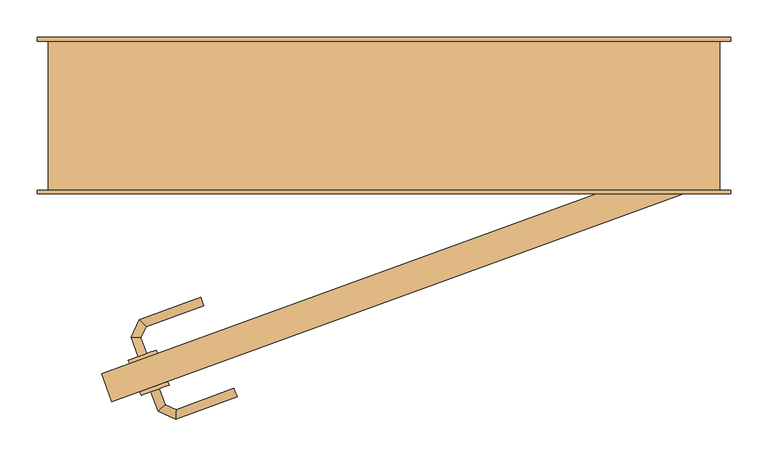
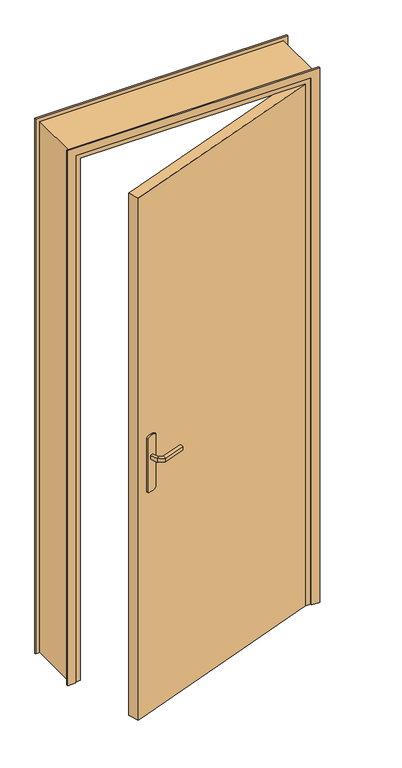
"""IFC4 building model written with IfcOpenShell, lengths in millimetres: door geometry, @_Int. Simple : @_PP (0.83m x 2.04m)."""

from ifc_helpers import new_model, si_unit, point, frame, frame_2d, origin, origin_with_axes, place, context, project, spatial, polyline, circle_curve, ellipse_curve, trimmed, segment, composite_curve, outline, extrude, faceted_brep, source, transform, mapped, element, save
from ifc_brep_helpers import plane_surface, cylinder_surface, advanced_brep


def door_0ca0b57b(model_context):
    return source(origin(), model_context, "Body", "SolidModel", [
        extrude(outline(composite_curve([segment(trimmed(circle_curve(frame_2d((0.0, -40.0)), 40.0), [point((-34.6410162, -60.0))], [point((-34.6410162, -20.0))], False, "CARTESIAN"), True, "CONTINUOUS"), segment(polyline([(-34.6410162, -20.0), (175.3589838, -20.0)]), True, "CONTINUOUS"), segment(trimmed(circle_curve(frame_2d((140.7179676, -40.0)), 40.0), [point((175.3589838, -20.0))], [point((175.3589838, -60.0))], False, "CARTESIAN"), True, "CONTINUOUS"), segment(polyline([(175.3589838, -60.0), (-34.6410162, -60.0)]), True, "CONTINUOUS")], self_intersect=False)), frame((-304.2655125, -354.3731677, 904.6410162), z_axis=(-0.3420201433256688, 0.9396926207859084, 0.0), x_axis=(0.0, 0.0, 1.0)), (0.0, 0.0, 1.0), 5.0),
        extrude(outline(composite_curve([segment(trimmed(circle_curve(frame_2d((0.0, -40.0)), 40.0), [point((34.6410162, -20.0))], [point((34.6410162, -60.0))], False, "CARTESIAN"), True, "CONTINUOUS"), segment(polyline([(34.6410162, -60.0), (-175.3589838, -60.0)]), True, "CONTINUOUS"), segment(trimmed(circle_curve(frame_2d((-140.7179676, -40.0)), 40.0), [point((-175.3589838, -60.0))], [point((-175.3589838, -20.0))], False, "CARTESIAN"), True, "CONTINUOUS"), segment(polyline([(-175.3589838, -20.0), (34.6410162, -20.0)]), True, "CONTINUOUS")], self_intersect=False)), frame((-319.6564189, -312.0869998, 1045.3589838), z_axis=(-0.3420201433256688, 0.9396926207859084, 0.0), x_axis=(0.0, 0.0, 1.0)), (0.0, 0.0, 1.0), 5.0),
        advanced_brep(
        [(-347.491373, -370.1060943, 1007.0), (-336.2150616, -366.0018526, 1007.0), (-336.2150616, -366.0018526, 993.0), (-347.491373, -370.1060943, 993.0), (-338.0341909, -396.0894887, 1007.0), (-328.457912, -387.3144458, 1007.0), (-328.457912, -387.3144458, 993.0), (-338.0341909, -396.0894887, 993.0), (-314.4798863, -407.0730413, 1007.0), (-313.9133269, -394.0966972, 1007.0), (-313.9133269, -394.0966972, 993.0), (-314.4798863, -407.0730413, 993.0), (-232.1238807, -377.0979066, 1007.0), (-232.1238807, -377.0979066, 993.0), (-236.2281224, -365.8215952, 993.0), (-236.2281224, -365.8215952, 1007.0)],
        [
            (0, 1, circle_curve(frame((-341.8532173, -368.0539735, 986.9542278), z_axis=(-0.3420201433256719, 0.9396926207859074, 0.0), x_axis=(0.9396926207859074, 0.3420201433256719, 0.0)), 20.9244589)),
            (1, 2),
            (2, 3, circle_curve(frame((-341.8532173, -368.0539735, 1013.0457722), z_axis=(-0.3420201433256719, 0.9396926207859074, 0.0), x_axis=(0.9396926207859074, 0.3420201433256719, 0.0)), 20.9244589)),
            (3, 0),
            (0, 4),
            (4, 5, ellipse_curve(frame((-333.2460515, -391.7019672, 986.9542278), z_axis=(-0.6755902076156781, 0.7372773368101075, 0.0), x_axis=(0.7372773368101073, 0.6755902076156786, 0.0)), 22.6484711, 20.9244589)),
            (5, 1),
            (5, 6),
            (6, 2),
            (6, 7, ellipse_curve(frame((-333.2460515, -391.7019672, 1013.0457722), z_axis=(-0.6755902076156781, 0.7372773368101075, 0.0), x_axis=(0.7372773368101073, 0.6755902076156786, 0.0)), 22.6484711, 20.9244589)),
            (7, 3),
            (7, 4),
            (4, 8),
            (8, 9, ellipse_curve(frame((-314.1966066, -400.5848693, 986.9542278), z_axis=(-0.9990482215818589, 0.0436193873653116, 0.0), x_axis=(0.04361938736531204, 0.9990482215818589, 0.0)), 22.6484711, 20.9244589)),
            (9, 5),
            (9, 10),
            (10, 6),
            (10, 11, ellipse_curve(frame((-314.1966066, -400.5848693, 1013.0457722), z_axis=(-0.9990482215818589, 0.0436193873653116, 0.0), x_axis=(0.04361938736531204, 0.9990482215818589, 0.0)), 22.6484711, 20.9244589)),
            (11, 7),
            (11, 8),
            (12, 13),
            (13, 14, circle_curve(frame((-234.1760015, -371.4597509, 1013.0457722), z_axis=(0.9396926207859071, 0.34202014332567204, 0.0), x_axis=(-0.3420201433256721, 0.9396926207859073, 0.0)), 20.9244589)),
            (14, 15),
            (15, 12, circle_curve(frame((-234.1760015, -371.4597509, 986.9542278), z_axis=(0.9396926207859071, 0.34202014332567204, 0.0), x_axis=(-0.3420201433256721, 0.9396926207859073, 0.0)), 20.9244589)),
            (8, 12),
            (15, 9),
            (14, 10),
            (13, 11),
        ],
        [
            plane_surface(frame((-350.5167552, -371.2072434, 1000.0), z_axis=(-0.3420201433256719, 0.9396926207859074, 0.0), x_axis=(0.0, 0.0, -1.0))),
            cylinder_surface(frame((-341.8532173, -368.0539735, 986.9542278), z_axis=(-0.3420201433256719, 0.9396926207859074, 0.0), x_axis=(0.9396926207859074, 0.3420201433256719, 0.0)), 20.9244589),
            plane_surface(frame((-336.2150616, -366.0018526, 1007.0), z_axis=(0.9396926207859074, 0.3420201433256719, 0.0), x_axis=(0.3420201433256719, -0.9396926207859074, 0.0))),
            cylinder_surface(frame((-341.8532173, -368.0539735, 1013.0457722), z_axis=(-0.3420201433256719, 0.9396926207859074, 0.0), x_axis=(0.9396926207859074, 0.3420201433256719, 0.0)), 20.9244589),
            plane_surface(frame((-347.491373, -370.1060943, 993.0), z_axis=(-0.9396926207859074, -0.3420201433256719, 0.0), x_axis=(0.3420201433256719, -0.9396926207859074, 0.0))),
            cylinder_surface(frame((-333.2460515, -391.7019672, 986.9542278), z_axis=(-0.9063077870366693, 0.42261826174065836, 0.0), x_axis=(0.42261826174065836, 0.9063077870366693, 0.0)), 20.9244589),
            plane_surface(frame((-328.457912, -387.3144458, 1007.0), z_axis=(0.42261826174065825, 0.9063077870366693, 0.0), x_axis=(0.9063077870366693, -0.42261826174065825, 0.0))),
            cylinder_surface(frame((-333.2460515, -391.7019672, 1013.0457722), z_axis=(-0.9063077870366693, 0.42261826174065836, 0.0), x_axis=(0.42261826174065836, 0.9063077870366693, 0.0)), 20.9244589),
            plane_surface(frame((-338.0341909, -396.0894887, 993.0), z_axis=(-0.42261826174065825, -0.9063077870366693, 0.0), x_axis=(0.9063077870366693, -0.42261826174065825, 0.0))),
            plane_surface(frame((-234.1760015, -371.4597509, 990.7804555), z_axis=(0.9396926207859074, 0.3420201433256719, 0.0), x_axis=(-0.3420201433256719, 0.9396926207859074, 0.0))),
            cylinder_surface(frame((-314.1966066, -400.5848693, 986.9542278), z_axis=(-0.9396926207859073, -0.3420201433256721, 0.0), x_axis=(-0.3420201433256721, 0.9396926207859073, 0.0)), 20.9244589),
            plane_surface(frame((-313.9133269, -394.0966972, 1007.0), z_axis=(-0.3420201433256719, 0.9396926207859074, 0.0), x_axis=(0.9396926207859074, 0.3420201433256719, 0.0))),
            cylinder_surface(frame((-314.1966066, -400.5848693, 1013.0457722), z_axis=(-0.9396926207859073, -0.3420201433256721, 0.0), x_axis=(-0.3420201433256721, 0.9396926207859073, 0.0)), 20.9244589),
            plane_surface(frame((-314.4798863, -407.0730413, 993.0), z_axis=(0.3420201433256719, -0.9396926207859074, 0.0), x_axis=(0.9396926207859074, 0.3420201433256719, 0.0))),
        ],
        [
            (0, [[1, 2, 3, 4]]),
            (1, [[-1, 5, 6, 7]]),
            (2, [[-2, -7, 8, 9]]),
            (3, [[-3, -9, 10, 11]]),
            (4, [[-4, -11, 12, -5]]),
            (5, [[-6, 13, 14, 15]]),
            (6, [[-8, -15, 16, 17]]),
            (7, [[-10, -17, 18, 19]]),
            (8, [[-12, -19, 20, -13]]),
            (9, [[21, 22, 23, 24]]),
            (10, [[-14, 25, -24, 26]]),
            (11, [[-16, -26, -23, 27]]),
            (12, [[-18, -27, -22, 28]]),
            (13, [[-20, -28, -21, -25]]),
        ],
    ),
        advanced_brep(
        [(-353.3160687, -319.0172216, 993.0), (-353.3160687, -319.0172216, 1007.0), (-364.5923802, -323.1214633, 1007.0), (-364.5923802, -323.1214633, 993.0), (-361.0064616, -297.8880408, 993.0), (-361.0064616, -297.8880408, 1007.0), (-373.9828056, -297.3214814, 1007.0), (-373.9828056, -297.3214814, 993.0), (-354.142025, -283.1672091, 993.0), (-354.142025, -283.1672091, 1007.0), (-362.9170679, -273.5909302, 1007.0), (-362.9170679, -273.5909302, 993.0), (-276.5605303, -254.9298543, 993.0), (-280.664772, -243.6535428, 993.0), (-280.664772, -243.6535428, 1007.0), (-276.5605303, -254.9298543, 1007.0)],
        [
            (0, 1),
            (1, 2, circle_curve(frame((-358.9542245, -321.0693424, 986.9542278), z_axis=(0.3420201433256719, -0.9396926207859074, 0.0), x_axis=(-0.9396926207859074, -0.3420201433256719, 0.0)), 20.9244589)),
            (2, 3),
            (3, 0, circle_curve(frame((-358.9542245, -321.0693424, 1013.0457722), z_axis=(0.3420201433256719, -0.9396926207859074, 0.0), x_axis=(-0.9396926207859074, -0.3420201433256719, 0.0)), 20.9244589)),
            (0, 4),
            (4, 5),
            (5, 1),
            (5, 6, ellipse_curve(frame((-367.4946336, -297.6047611, 986.9542278), z_axis=(-0.043619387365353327, -0.9990482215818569, 0.0), x_axis=(0.9990482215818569, -0.04361938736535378, 0.0)), 22.6484711, 20.9244589)),
            (6, 2),
            (6, 7),
            (7, 3),
            (7, 4, ellipse_curve(frame((-367.4946336, -297.6047611, 1013.0457722), z_axis=(-0.043619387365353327, -0.9990482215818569, 0.0), x_axis=(0.9990482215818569, -0.04361938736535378, 0.0)), 22.6484711, 20.9244589)),
            (4, 8),
            (8, 9),
            (9, 5),
            (9, 10, ellipse_curve(frame((-358.5295465, -278.3790696, 986.9542278), z_axis=(-0.737277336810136, -0.6755902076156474, 0.0), x_axis=(0.6755902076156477, -0.7372773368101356, 0.0)), 22.6484711, 20.9244589)),
            (10, 6),
            (10, 11),
            (11, 7),
            (11, 8, ellipse_curve(frame((-358.5295465, -278.3790696, 1013.0457722), z_axis=(-0.737277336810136, -0.6755902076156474, 0.0), x_axis=(0.6755902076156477, -0.7372773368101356, 0.0)), 22.6484711, 20.9244589)),
            (12, 13, circle_curve(frame((-278.6126511, -249.2916985, 1013.0457722), z_axis=(0.9396926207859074, 0.3420201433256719, 0.0), x_axis=(-0.3420201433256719, 0.9396926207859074, 0.0)), 20.9244589)),
            (13, 14),
            (14, 15, circle_curve(frame((-278.6126511, -249.2916985, 986.9542278), z_axis=(0.9396926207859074, 0.3420201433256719, 0.0), x_axis=(-0.3420201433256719, 0.9396926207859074, 0.0)), 20.9244589)),
            (15, 12),
            (8, 12),
            (15, 9),
            (14, 10),
            (13, 11),
        ],
        [
            plane_surface(frame((-367.6177623, -324.2226123, 1000.0), z_axis=(0.3420201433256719, -0.9396926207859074, 0.0), x_axis=(0.0, 0.0, 1.0))),
            plane_surface(frame((-353.3160687, -319.0172216, 993.0), z_axis=(0.9396926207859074, 0.3420201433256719, 0.0), x_axis=(-0.3420201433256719, 0.9396926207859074, 0.0))),
            cylinder_surface(frame((-358.9542245, -321.0693424, 986.9542278), z_axis=(0.3420201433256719, -0.9396926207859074, 0.0), x_axis=(-0.9396926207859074, -0.3420201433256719, 0.0)), 20.9244589),
            plane_surface(frame((-364.5923802, -323.1214633, 1007.0), z_axis=(-0.9396926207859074, -0.3420201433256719, 0.0), x_axis=(-0.3420201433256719, 0.9396926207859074, 0.0))),
            cylinder_surface(frame((-358.9542245, -321.0693424, 1013.0457722), z_axis=(0.3420201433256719, -0.9396926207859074, 0.0), x_axis=(-0.9396926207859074, -0.3420201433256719, 0.0)), 20.9244589),
            plane_surface(frame((-361.0064616, -297.8880408, 993.0), z_axis=(0.906307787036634, -0.42261826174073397, 0.0), x_axis=(0.42261826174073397, 0.906307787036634, 0.0))),
            cylinder_surface(frame((-367.4946336, -297.6047611, 986.9542278), z_axis=(-0.422618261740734, -0.9063077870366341, 0.0), x_axis=(-0.9063077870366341, 0.422618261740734, 0.0)), 20.9244589),
            plane_surface(frame((-373.9828056, -297.3214814, 1007.0), z_axis=(-0.906307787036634, 0.4226182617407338, 0.0), x_axis=(0.4226182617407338, 0.906307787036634, 0.0))),
            cylinder_surface(frame((-367.4946336, -297.6047611, 1013.0457722), z_axis=(-0.422618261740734, -0.9063077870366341, 0.0), x_axis=(-0.9063077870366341, 0.422618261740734, 0.0)), 20.9244589),
            plane_surface(frame((-278.6126511, -249.2916985, 990.7804555), z_axis=(0.9396926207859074, 0.3420201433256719, 0.0), x_axis=(-0.3420201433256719, 0.9396926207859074, 0.0))),
            plane_surface(frame((-354.142025, -283.1672091, 993.0), z_axis=(0.3420201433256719, -0.9396926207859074, 0.0), x_axis=(0.9396926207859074, 0.3420201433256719, 0.0))),
            cylinder_surface(frame((-358.5295465, -278.3790696, 986.9542278), z_axis=(-0.9396926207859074, -0.3420201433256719, 0.0), x_axis=(-0.3420201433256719, 0.9396926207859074, 0.0)), 20.9244589),
            plane_surface(frame((-362.9170679, -273.5909302, 1007.0), z_axis=(-0.3420201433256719, 0.9396926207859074, 0.0), x_axis=(0.9396926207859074, 0.3420201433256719, 0.0))),
            cylinder_surface(frame((-358.5295465, -278.3790696, 1013.0457722), z_axis=(-0.9396926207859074, -0.3420201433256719, 0.0), x_axis=(-0.3420201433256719, 0.9396926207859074, 0.0)), 20.9244589),
        ],
        [
            (0, [[1, 2, 3, 4]]),
            (1, [[-1, 5, 6, 7]]),
            (2, [[-2, -7, 8, 9]]),
            (3, [[-3, -9, 10, 11]]),
            (4, [[-4, -11, 12, -5]]),
            (5, [[-6, 13, 14, 15]]),
            (6, [[-8, -15, 16, 17]]),
            (7, [[-10, -17, 18, 19]]),
            (8, [[-12, -19, 20, -13]]),
            (9, [[21, 22, 23, 24]]),
            (10, [[-14, 25, -24, 26]]),
            (11, [[-16, -26, -23, 27]]),
            (12, [[-18, -27, -22, 28]]),
            (13, [[-20, -28, -21, -25]]),
        ],
    ),
        extrude(outline(polyline([(-413.625681, -346.2890141), (366.3191943, -62.4122952), (380.0, -100.0), (-399.9448753, -383.876719), (-413.625681, -346.2890141)])), origin_with_axes(), (0.0, 0.0, 1.0), 2040.0),
        faceted_brep([(-485.0, -100.0, 0.0), (-485.0, 100.0, 0.0), (-435.0, 100.0, 0.0), (-435.0, -60.0, 0.0), (-450.0, -60.0, 0.0), (-450.0, -100.0, 0.0), (-485.0, -100.0, 2075.0), (-485.0, 100.0, 2075.0), (415.0, 100.0, 2075.0), (415.0, 100.0, 0.0), (365.0, 100.0, 0.0), (365.0, 100.0, 2025.0), (-435.0, 100.0, 2025.0), (-435.0, -60.0, 2025.0), (365.0, -60.0, 2025.0), (365.0, -60.0, 0.0), (380.0, -60.0, 0.0), (380.0, -60.0, 2040.0), (-450.0, -60.0, 2040.0), (-450.0, -100.0, 2040.0), (380.0, -100.0, 2040.0), (380.0, -100.0, 0.0), (415.0, -100.0, 0.0), (415.0, -100.0, 2075.0)], [[[0, 1, 2, 3, 4, 5]], [[1, 0, 6, 7]], [[2, 1, 7, 8, 9, 10, 11, 12]], [[3, 2, 12, 13]], [[4, 3, 13, 14, 15, 16, 17, 18]], [[5, 4, 18, 19]], [[0, 5, 19, 20, 21, 22, 23, 6]], [[8, 23, 22, 9]], [[22, 21, 16, 15, 10, 9]], [[14, 11, 10, 15]], [[20, 17, 16, 21]], [[7, 6, 23, 8]], [[13, 12, 11, 14]], [[19, 18, 17, 20]]]),
        extrude(outline(polyline([(0.0, -500.0), (0.0, -470.0), (2060.0, -470.0), (2060.0, 400.0), (0.0, 400.0), (0.0, 430.0), (2090.0, 430.0), (2090.0, -500.0), (0.0, -500.0)])), frame((0.0, -105.0, 0.0), z_axis=(0.0, 1.0, 0.0), x_axis=(0.0, 0.0, 1.0)), (0.0, 0.0, 1.0), 5.0),
        extrude(outline(polyline([(0.0, -500.0), (0.0, -470.0), (2060.0, -470.0), (2060.0, 400.0), (0.0, 400.0), (0.0, 430.0), (2090.0, 430.0), (2090.0, -500.0), (0.0, -500.0)])), frame((0.0, 100.0, 0.0), z_axis=(0.0, 1.0, 0.0), x_axis=(0.0, 0.0, 1.0)), (0.0, 0.0, 1.0), 5.0),
    ])


if __name__ == "__main__":
    model = new_model("IFC4")
    model_context = context("Model", 3, world=origin())
    ifc_project = project(units=[si_unit("LENGTHUNIT", "METRE", prefix="MILLI")], contexts=[model_context])
    site = spatial("IfcSite", under=ifc_project)
    building = spatial("IfcBuilding", under=site)
    placement = place(None, origin())
    door_shape = door_0ca0b57b(model_context)
    element("IfcDoor", 1, ObjectType="@_Int. Simple : @_PP (0.83m x 2.04m)", at=placement, inside=building, context=model_context, shape_type="MappedRepresentation", body=[
        mapped(door_shape, transform((0.0, 0.0, 0.0), x_axis=(1.0, 0.0, 0.0), y_axis=(0.0, 1.0, 0.0), z_axis=(0.0, 0.0, 1.0))),
    ])
    save(model, "model.ifc")
